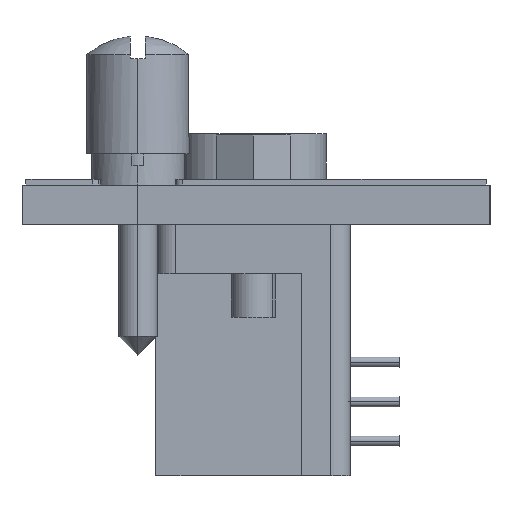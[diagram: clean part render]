
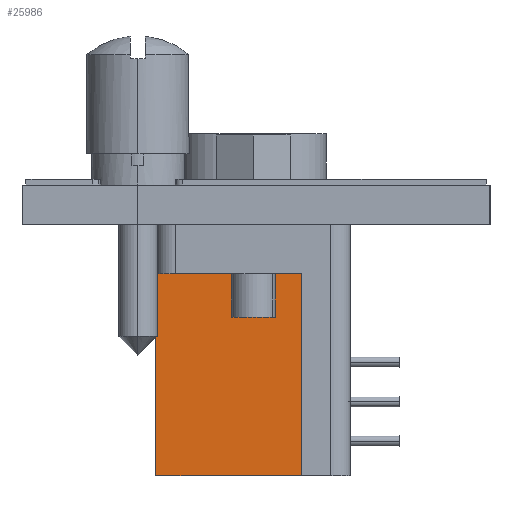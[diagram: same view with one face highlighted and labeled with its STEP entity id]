
A CAD part, left-side view. The second image highlights one B-rep face of the part: STEP entity #25986.
In plain terms, the highlighted planar face has unit normal (-1, 0, 0).
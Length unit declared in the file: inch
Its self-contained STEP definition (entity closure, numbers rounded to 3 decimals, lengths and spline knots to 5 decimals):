
#8785=DIRECTION('',(0.,0.,1.));
#8786=VECTOR('',#8785,0.5128);
#8787=CARTESIAN_POINT('',(0.5785,0.843,-0.6378));
#8788=LINE('',#8787,#8786);
#8829=DIRECTION('',(0.,-1.,0.));
#8830=VECTOR('',#8829,0.369);
#8831=CARTESIAN_POINT('',(0.5785,0.843,-0.6378));
#8832=LINE('',#8831,#8830);
#8922=DIRECTION('',(0.,-1.,0.));
#8923=VECTOR('',#8922,0.369);
#8924=CARTESIAN_POINT('',(0.5785,0.843,-0.125));
#8925=LINE('',#8924,#8923);
#8941=DIRECTION('',(0.,0.,-1.));
#8942=VECTOR('',#8941,0.5128);
#8943=CARTESIAN_POINT('',(0.5785,0.474,-0.125));
#8944=LINE('',#8943,#8942);
#11821=CARTESIAN_POINT('',(0.5785,0.474,-0.6378));
#11823=VERTEX_POINT('',#11821);
#11827=CARTESIAN_POINT('',(0.5785,0.843,-0.6378));
#11828=VERTEX_POINT('',#11827);
#11839=CARTESIAN_POINT('',(0.5785,0.843,-0.125));
#11840=VERTEX_POINT('',#11839);
#11855=CARTESIAN_POINT('',(0.5785,0.474,-0.125));
#11856=VERTEX_POINT('',#11855);
#25973=CARTESIAN_POINT('',(0.5785,0.843,-0.125));
#25974=DIRECTION('',(1.,0.,0.));
#25975=DIRECTION('',(0.,0.,-1.));
#25976=AXIS2_PLACEMENT_3D('',#25973,#25974,#25975);
#25977=PLANE('',#25976);
#25978=ORIENTED_EDGE('',*,*,#25845,.F.);
#25979=ORIENTED_EDGE('',*,*,#25778,.T.);
#25981=ORIENTED_EDGE('',*,*,#25980,.T.);
#25983=ORIENTED_EDGE('',*,*,#25982,.T.);
#25984=EDGE_LOOP('',(#25978,#25979,#25981,#25983));
#25985=FACE_OUTER_BOUND('',#25984,.F.);
#25986=ADVANCED_FACE('',(#25985),#25977,.F.);
#25778=EDGE_CURVE('',#11828,#11840,#8788,.T.);
#25845=EDGE_CURVE('',#11828,#11823,#8832,.T.);
#25980=EDGE_CURVE('',#11840,#11856,#8925,.T.);
#25982=EDGE_CURVE('',#11856,#11823,#8944,.T.);
